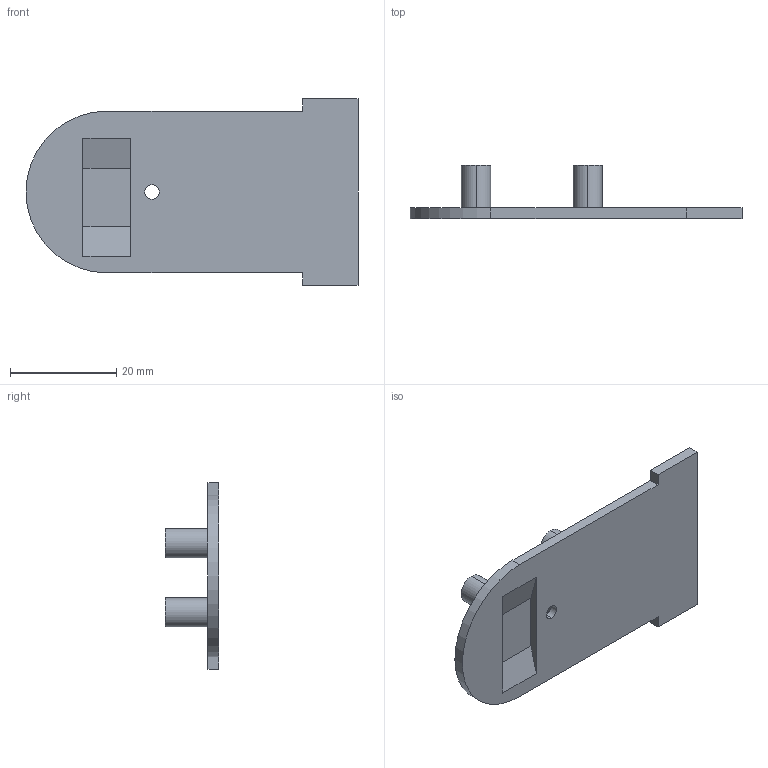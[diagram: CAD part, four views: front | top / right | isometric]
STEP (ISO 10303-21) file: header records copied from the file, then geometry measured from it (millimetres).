
FILE_DESCRIPTION(('Open CASCADE Model'),'2;1');
FILE_NAME('sensor-back-cover.step','2026-11-14T14:29:30',('Author'),( 'Open CASCADE'),'Open CASCADE STEP processor 8.0','Open CASCADE 8.0' ,'Unknown');
FILE_SCHEMA(('AP242_MANAGED_MODEL_BASED_3D_ENGINEERING_MIM_LF {1 0 10303 442 1 1 4 }' ));
Length unit declared in the file: millimetre
Products named in the file (1): Sensor Back Cover
Bounding box: 62.41 x 10 x 35.06 mm (x, y, z)
Volume: 4082.8 mm3; surface area: 4847.1 mm2
Topology: 1 solids, 1 shells, 43 faces, 94 edges, 62 vertices
Faces by surface type: plane 22, cylinder 19, cone 2
Entity records: 2428 total; most frequent: DIRECTION 410, CARTESIAN_POINT 388, LINE 204, VECTOR 204, ORIENTED_EDGE 188, PCURVE 188, DEFINITIONAL_REPRESENTATION 188, EDGE_CURVE 94
